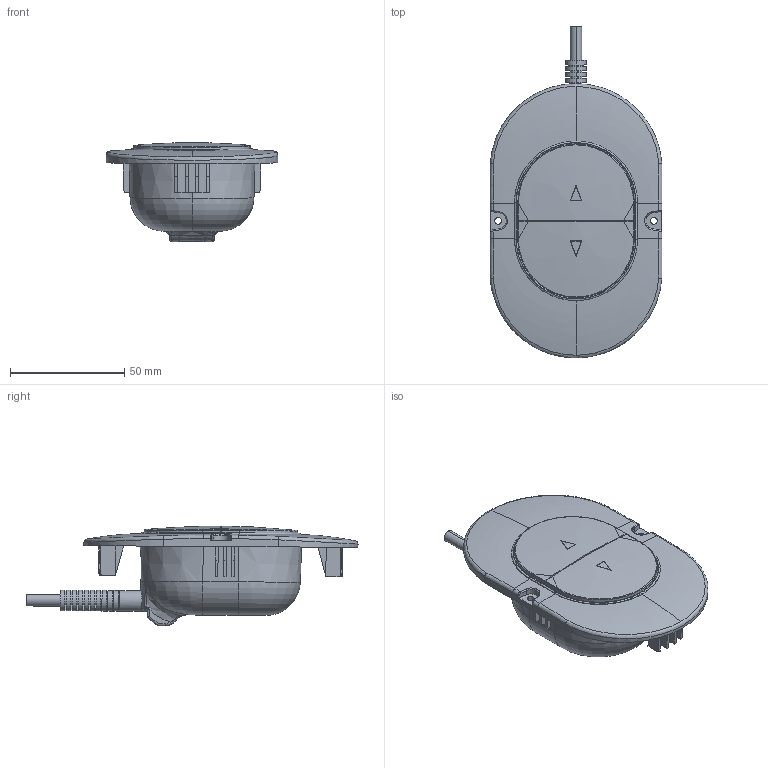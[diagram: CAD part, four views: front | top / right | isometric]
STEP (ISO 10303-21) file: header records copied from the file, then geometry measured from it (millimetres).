
FILE_DESCRIPTION (( 'STEP AP203' ), '1' );
FILE_NAME ('TH16.STEP', '2012-02-23T09:27:45', ( '' ), ( '' ), 'SwSTEP 2.0', 'SolidWorks 2010', '' );
FILE_SCHEMA (( 'CONFIG_CONTROL_DESIGN' ));
Length unit declared in the file: millimetre
Products named in the file (1): TH16
Bounding box: 75 x 145.11 x 43.53 mm (x, y, z)
Volume: 137869.4 mm3; surface area: 27486.3 mm2
Topology: 1 solids, 1 shells, 391 faces, 1063 edges, 679 vertices
Faces by surface type: plane 209, cylinder 88, bspline 75, cone 11, torus 8
Entity records: 20250 total; most frequent: CARTESIAN_POINT 10957, ORIENTED_EDGE 2118, DIRECTION 1637, EDGE_CURVE 1059, VERTEX_POINT 679, VECTOR 561, LINE 561, AXIS2_PLACEMENT_3D 538
